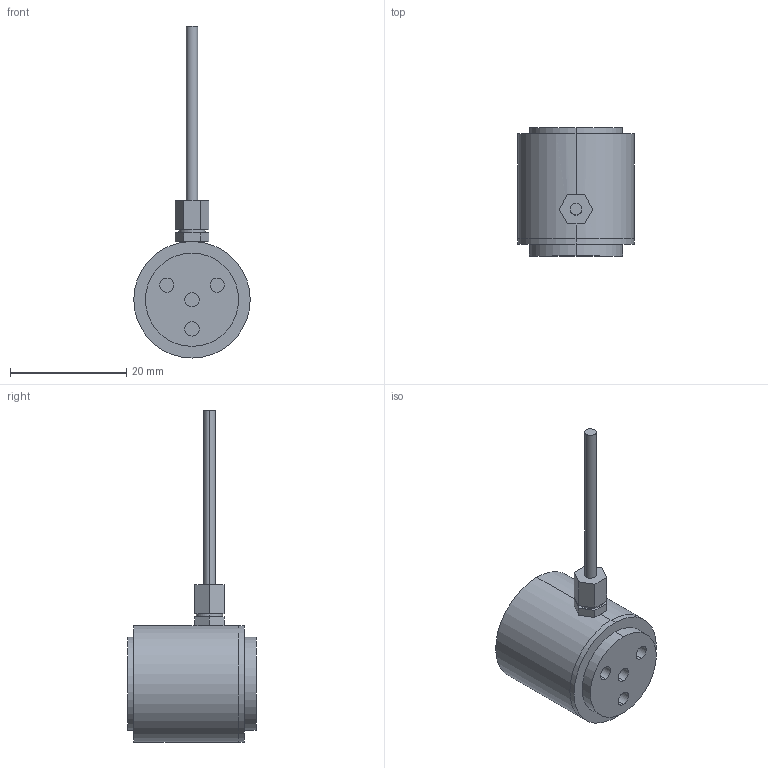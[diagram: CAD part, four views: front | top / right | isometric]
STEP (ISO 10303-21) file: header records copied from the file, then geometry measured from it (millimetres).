
FILE_DESCRIPTION (( 'STEP AP203' ), '1' );
FILE_NAME ('CL2.STEP', '2024-07-19T02:46:03', ( '' ), ( '' ), 'SwSTEP 2.0', 'SolidWorks 2023', '' );
FILE_SCHEMA (( 'CONFIG_CONTROL_DESIGN' ));
Length unit declared in the file: millimetre
Products named in the file (4): Geom; CL2; _X2_59165957_X0_; _X2_5BFC7EBF_X0_
Assembly tree (3 placements, depth 2):
  CL2
    Geom
    _X2_59165957_X0_
    _X2_5BFC7EBF_X0_
Bounding box: 20 x 22 x 57 mm (x, y, z)
Volume: 5691.8 mm3; surface area: 4682 mm2
Topology: 4 solids, 4 shells, 73 faces, 156 edges, 104 vertices
Faces by surface type: cylinder 38, plane 35
Entity records: 2510 total; most frequent: CARTESIAN_POINT 443, DIRECTION 378, ORIENTED_EDGE 312, EDGE_CURVE 156, AXIS2_PLACEMENT_3D 151, VERTEX_POINT 104, EDGE_LOOP 90, VECTOR 76
